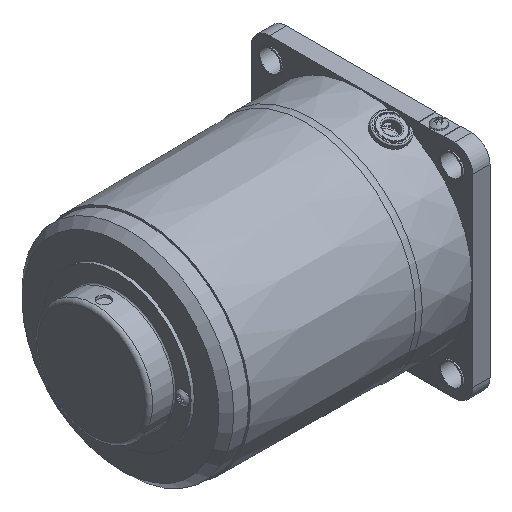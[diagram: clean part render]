
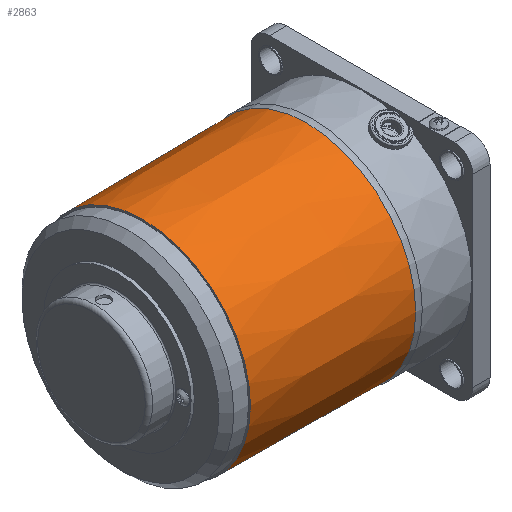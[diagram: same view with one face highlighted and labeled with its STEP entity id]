
A CAD part, isometric view. The second image highlights one B-rep face of the part: STEP entity #2863.
In plain terms, the highlighted conical face has half-angle 0.48 degrees and reference radius 44.029 mm.
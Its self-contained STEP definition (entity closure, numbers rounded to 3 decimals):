
#14=CONICAL_SURFACE('',#3085,44.029,0.008);
#293=LINE('',#4469,#514);
#514=VECTOR('',#3516,44.029);
#799=FACE_OUTER_BOUND('',#970,.T.);
#970=EDGE_LOOP('',(#2121,#2122,#2123,#2124,#2125));
#1145=CIRCLE('',#3083,44.308);
#1146=CIRCLE('',#3084,44.308);
#1147=CIRCLE('',#3086,43.75);
#1313=VERTEX_POINT('',#4462);
#1314=VERTEX_POINT('',#4464);
#1315=VERTEX_POINT('',#4468);
#1615=EDGE_CURVE('',#1313,#1314,#1145,.T.);
#1616=EDGE_CURVE('',#1314,#1313,#1146,.T.);
#1617=EDGE_CURVE('',#1314,#1315,#293,.T.);
#1618=EDGE_CURVE('',#1315,#1315,#1147,.T.);
#2121=ORIENTED_EDGE('',*,*,#1616,.F.);
#2122=ORIENTED_EDGE('',*,*,#1617,.T.);
#2123=ORIENTED_EDGE('',*,*,#1618,.T.);
#2124=ORIENTED_EDGE('',*,*,#1617,.F.);
#2125=ORIENTED_EDGE('',*,*,#1615,.F.);
#2863=ADVANCED_FACE('',(#799),#14,.T.);
#3083=AXIS2_PLACEMENT_3D('',#4465,#3510,#3511);
#3084=AXIS2_PLACEMENT_3D('',#4466,#3512,#3513);
#3085=AXIS2_PLACEMENT_3D('',#4467,#3514,#3515);
#3086=AXIS2_PLACEMENT_3D('',#4470,#3517,#3518);
#3510=DIRECTION('center_axis',(1.,0.,0.));
#3511=DIRECTION('ref_axis',(0.,1.,0.));
#3512=DIRECTION('center_axis',(1.,0.,0.));
#3513=DIRECTION('ref_axis',(0.,1.,0.));
#3514=DIRECTION('center_axis',(1.,0.,0.));
#3515=DIRECTION('ref_axis',(0.,1.,0.));
#3516=DIRECTION('',(-1.,0.008,0.));
#3517=DIRECTION('center_axis',(1.,0.,0.));
#3518=DIRECTION('ref_axis',(0.,1.,0.));
#4462=CARTESIAN_POINT('',(75.559,0.,44.308));
#4464=CARTESIAN_POINT('',(75.559,-44.308,0.));
#4465=CARTESIAN_POINT('Origin',(75.559,0.,0.));
#4466=CARTESIAN_POINT('Origin',(75.559,0.,0.));
#4467=CARTESIAN_POINT('Origin',(42.279,0.,0.));
#4468=CARTESIAN_POINT('',(9.,-43.75,0.));
#4469=CARTESIAN_POINT('',(42.279,-44.029,0.));
#4470=CARTESIAN_POINT('Origin',(9.,0.,0.));
